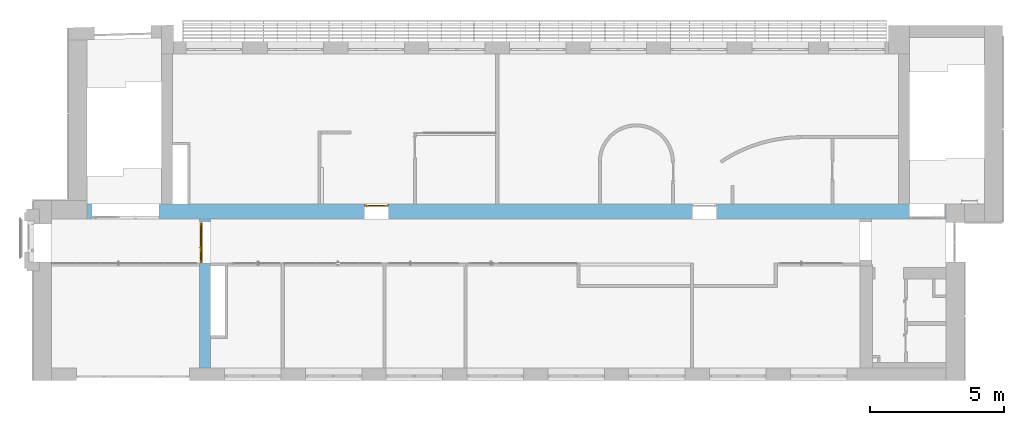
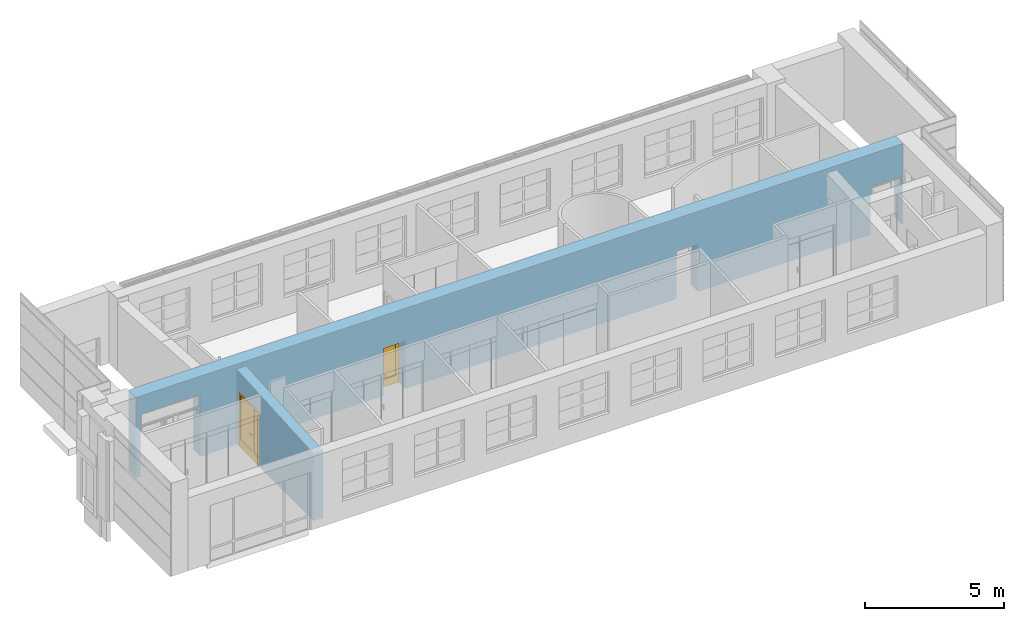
# One storey, part 42 of 46: 2 doors, 8 openings, plus 2 elements that do not belong to this part.
"""IFC2X3 building model written with IfcOpenShell, lengths in millimetres."""

from ifc_helpers import new_model, entity, si_unit, converted_unit, derived_unit, direction, frame, frame_2d, origin, place, context, subcontext, project, spatial, rectangle, extrude, clip, halfspace, faceted_brep, source, transform, mapped, material, material_list, layer, layer_set, layer_usage, type_object, type_shapes, element, fill, save


model = new_model("IFC2X3")

# Units and contexts
model_context = context("Model", 3, precision=0.01, world=origin(), true_north=direction((6.12303176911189e-17, 1.0)))
body_context = subcontext(model_context, "Body", "Model", "MODEL_VIEW")
ifc_project = project(units=[si_unit("LENGTHUNIT", "METRE", prefix="MILLI"), si_unit("AREAUNIT", "SQUARE_METRE"), si_unit("VOLUMEUNIT", "CUBIC_METRE"), converted_unit("PLANEANGLEUNIT", "DEGREE", entity("IfcRatioMeasure", 0.0174532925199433), si_unit("PLANEANGLEUNIT", "RADIAN"), dimensions=[0, 0, 0, 0, 0, 0, 0]), si_unit("MASSUNIT", "GRAM", prefix="KILO"), derived_unit("MASSDENSITYUNIT", [(si_unit("MASSUNIT", "GRAM", prefix="KILO"), 1), (si_unit("LENGTHUNIT", "METRE"), -3)]), si_unit("TIMEUNIT", "SECOND"), si_unit("FREQUENCYUNIT", "HERTZ"), si_unit("THERMODYNAMICTEMPERATUREUNIT", "DEGREE_CELSIUS"), derived_unit("THERMALTRANSMITTANCEUNIT", [(si_unit("MASSUNIT", "GRAM", prefix="KILO"), 1), (si_unit("THERMODYNAMICTEMPERATUREUNIT", "KELVIN"), -1), (si_unit("TIMEUNIT", "SECOND"), -3)]), derived_unit("VOLUMETRICFLOWRATEUNIT", [(si_unit("LENGTHUNIT", "METRE"), 3), (si_unit("TIMEUNIT", "SECOND"), -1)]), si_unit("ELECTRICCURRENTUNIT", "AMPERE"), si_unit("ELECTRICVOLTAGEUNIT", "VOLT"), si_unit("POWERUNIT", "WATT"), si_unit("FORCEUNIT", "NEWTON", prefix="KILO"), si_unit("ILLUMINANCEUNIT", "LUX"), si_unit("LUMINOUSFLUXUNIT", "LUMEN"), si_unit("LUMINOUSINTENSITYUNIT", "CANDELA"), derived_unit("USERDEFINED", [(si_unit("MASSUNIT", "GRAM", prefix="KILO"), -1), (si_unit("LENGTHUNIT", "METRE"), -2), (si_unit("TIMEUNIT", "SECOND"), 3), (si_unit("LUMINOUSFLUXUNIT", "LUMEN"), 1)]), derived_unit("LINEARVELOCITYUNIT", [(si_unit("LENGTHUNIT", "METRE"), 1), (si_unit("TIMEUNIT", "SECOND"), -1)]), si_unit("PRESSUREUNIT", "PASCAL"), derived_unit("USERDEFINED", [(si_unit("LENGTHUNIT", "METRE"), -2), (si_unit("MASSUNIT", "GRAM", prefix="KILO"), 1), (si_unit("TIMEUNIT", "SECOND"), -2)])], contexts=[model_context])

# Site, building, storey
site_placement = place(None, frame((-151.875543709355, 2715.0, 0.0)))
site = spatial("IfcSite", under=ifc_project, at=site_placement, Name="Surface", CompositionType="ELEMENT")
building_placement = place(site_placement, origin())
building = spatial("IfcBuilding", under=site, at=building_placement, CompositionType="ELEMENT")
storey_placement = place(building_placement, frame((0.0, 0.0, 10060.0)))
storey = spatial("IfcBuildingStorey", under=building, at=storey_placement, Name="4 korrus", CompositionType="ELEMENT", Elevation=10060.0000000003)

# Wall, openings, door
ifc_material_1 = material(Name="__Hall krohv")
ifc_layer_1 = layer(ifc_material_1, 10.0)
ifc_material_2 = material(Name="Tellis")
ifc_layer_2 = layer(ifc_material_2, 380.0)
ifc_layer_3 = layer(ifc_material_1, 10.0)
ifc_layer_set_1 = layer_set([ifc_layer_1, ifc_layer_2, ifc_layer_3], Name="Basic Wall:SS-01_ol.olev tellissein400")
ifc_layer_usage_1 = layer_usage(ifc_layer_set_1, "AXIS2", "NEGATIVE", 200.0)
wall_type_1 = type_object("IfcWallType", Name="Basic Wall:SS-01_ol.olev tellissein400", PredefinedType="STANDARD", material=ifc_layer_set_1)
wall_1_placement = place(storey_placement, frame((6162.49352943, 459.904632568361, 0.0), z_axis=(0.0, 0.0, 1.0), x_axis=(0.0, 1.0, 0.0)))
wall_1 = element("IfcWallStandardCase", 1, at=wall_1_placement, inside=storey, type_object=wall_type_1, material=ifc_layer_usage_1, Name="SEIN - 001", ObjectType="Basic Wall:SS-01_ol.olev tellissein400", context=body_context, shape_type="Clipping", body=[
    clip(extrude(rectangle(XDim=5550.09536743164, YDim=400.0, at=frame_2d((2775.04768371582, 0.0), x_axis=(-1.0, 0.0))), origin(), (0.0, 0.0, 1.0), 3326.72700668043), halfspace(frame((0.0, -200.0, 2971.26018189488), z_axis=(-0.0639160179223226, 0.0, 0.997955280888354), x_axis=(0.0, 1.0, 0.0)), False)),
])
opening_1_placement = place(wall_1_placement, origin())
element("IfcOpeningElement", 2, at=opening_1_placement, cuts=wall_1, Name="SEIN - 001", ObjectType="Opening", context=body_context, shape_type="SweptSolid", body=[
    extrude(rectangle(XDim=2425.99386215, YDim=1510.16235352, at=frame_2d((-1.02318153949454e-12, 0.0), x_axis=(1.0, 0.0))), frame((4671.45356888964, -200.0, 1212.99693108), z_axis=(0.0, 1.0, 0.0), x_axis=(0.0, 0.0, -1.0)), (0.0, 0.0, 1.0), 800.0),
])
opening_2_placement = place(wall_1_placement, frame((3916.37239212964, -200.0, -0.00203353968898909)))
opening_2 = element("IfcOpeningElement", 3, at=opening_2_placement, cuts=wall_1, Name="Kahepoolsed:SU-23:1", ObjectType="Opening", context=body_context, shape_type="SweptSolid", body=[
    extrude(rectangle(XDim=2419.99999999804, YDim=1500.0, at=frame_2d((1209.99999999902, 750.0), x_axis=(1.0, 0.0))), frame((0.0, 0.0, 0.0), z_axis=(0.0, 1.0, 0.0), x_axis=(0.0, 0.0, 1.0)), (0.0, 0.0, 1.0), 400.0),
])
ifc_material_3 = material(Name="_Alumiiniumprofiil - must")
ifc_material_4 = material(Name="__Uks_hele tamm")
ifc_material_5 = material(Name="EP Tavallinen lasi")
ifc_material_list_1 = material_list([ifc_material_3, ifc_material_4, ifc_material_5])
ifc_material_list_2 = material_list([ifc_material_3, ifc_material_4, ifc_material_5])
door_style_1 = type_object("IfcDoorStyle", Name="SU-23", ConstructionType="NOTDEFINED", OperationType="FOLDING_TO_RIGHT", ParameterTakesPrecedence=False, Sizeable=False, material=ifc_material_list_2)
shared_shape_1 = source(origin(), body_context, "Body", "Brep", [
    faceted_brep([(520.260051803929, 290.0, 1100.0), (520.260051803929, 328.0, 1100.0), (495.260051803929, 328.0, 1100.0), (495.260051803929, 285.0, 1100.0), (615.260051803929, 285.0, 1100.0), (615.260051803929, 290.0, 1100.0), (520.260051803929, 290.0, 1075.0), (615.260051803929, 290.0, 1075.0), (615.260051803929, 285.0, 1075.0), (495.260051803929, 285.0, 1075.0), (495.260051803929, 328.0, 1075.0), (520.260051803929, 328.0, 1075.0)], [[[0, 1, 2, 3, 4, 5]], [[6, 7, 8, 9, 10, 11]], [[1, 0, 6, 11]], [[2, 1, 11, 10]], [[3, 2, 10, 9]], [[4, 3, 9, 8]], [[5, 4, 8, 7]], [[0, 5, 7, 6]]]),
    faceted_brep([(532.760051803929, 328.0, 1125.0), (532.760051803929, 330.0, 1125.0), (482.760051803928, 330.0, 1125.0), (482.760051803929, 328.0, 1125.0), (532.760051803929, 328.0, 1005.0), (482.760051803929, 328.0, 1005.0), (482.760051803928, 330.0, 1005.0), (532.760051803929, 330.0, 1005.0)], [[[0, 1, 2, 3]], [[4, 5, 6, 7]], [[1, 0, 4, 7]], [[2, 1, 7, 6]], [[3, 2, 6, 5]], [[0, 3, 5, 4]]]),
    faceted_brep([(520.26005180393, 420.0, 1100.0), (615.26005180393, 420.0, 1100.0), (615.26005180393, 425.0, 1100.0), (495.26005180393, 425.0, 1100.0), (495.26005180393, 382.0, 1100.0), (520.26005180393, 382.0, 1100.0), (520.26005180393, 420.0, 1075.0), (520.26005180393, 382.0, 1075.0), (495.26005180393, 382.0, 1075.0), (495.26005180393, 425.0, 1075.0), (615.26005180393, 425.0, 1075.0), (615.26005180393, 420.0, 1075.0)], [[[0, 1, 2, 3, 4, 5]], [[6, 7, 8, 9, 10, 11]], [[5, 7, 6, 0]], [[4, 8, 7, 5]], [[3, 9, 8, 4]], [[2, 10, 9, 3]], [[1, 11, 10, 2]], [[0, 6, 11, 1]]]),
    faceted_brep([(532.76005180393, 382.0, 1125.0), (482.76005180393, 382.0, 1125.0), (482.76005180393, 380.0, 1125.0), (532.76005180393, 380.0, 1125.0), (532.76005180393, 382.0, 1005.0), (532.76005180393, 380.0, 1005.0), (482.76005180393, 380.0, 1005.0), (482.76005180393, 382.0, 1005.0)], [[[0, 1, 2, 3]], [[4, 5, 6, 7]], [[3, 5, 4, 0]], [[2, 6, 5, 3]], [[1, 7, 6, 2]], [[0, 4, 7, 1]]]),
    faceted_brep([(-27.2399481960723, 290.0, 30.0), (-27.2399481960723, 330.0, 30.0), (-27.2399481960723, 330.0, 20.0), (-27.2399481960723, 330.0, 0.0), (-27.2399481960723, 290.0, 0.0), (1392.76005180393, 290.0, 30.0), (1392.76005180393, 290.0, 0.0), (1392.76005180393, 330.0, 0.0), (1392.76005180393, 330.0, 20.0), (1392.76005180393, 330.0, 30.0), (-42.2399481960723, 330.0, 0.0), (-42.2399481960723, 380.0, 0.0), (1407.76005180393, 380.0, 0.0), (1407.76005180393, 330.0, 0.0), (-42.2399481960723, 380.0, 20.0), (-42.2399481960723, 330.0, 20.0), (1407.76005180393, 380.0, 20.0), (1407.76005180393, 330.0, 20.0)], [[[0, 1, 2, 3, 4]], [[5, 6, 7, 8, 9]], [[4, 6, 5, 0]], [[3, 10, 11, 12, 13, 7, 6, 4]], [[9, 8, 2, 1]], [[0, 5, 9, 1]], [[14, 11, 10, 15]], [[16, 17, 13, 12]], [[15, 2, 8, 17, 16, 14]], [[10, 3, 2, 15]], [[14, 16, 12, 11]], [[17, 8, 7, 13]]]),
    faceted_brep([(-67.2399481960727, 290.0, 0.0), (-67.239948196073, 380.0, 0.0), (-42.239948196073, 380.0, 0.0), (-42.2399481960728, 330.0, 0.0), (-27.2399481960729, 330.0, 0.0), (-27.2399481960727, 290.0, 0.0), (-27.2399481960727, 290.0, 2380.0), (1392.76005180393, 290.0, 2380.0), (1392.76005180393, 290.0, 0.0), (1432.76005180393, 290.0, 0.0), (1432.76005180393, 290.0, 2420.0), (-67.2399481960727, 290.0, 2420.0), (-27.2399481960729, 330.0, 2380.0), (-42.239948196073, 330.0, 2395.0), (1407.76005180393, 330.0, 2395.0), (1407.76005180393, 330.0, 0.0), (1392.76005180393, 330.0, 0.0), (1392.76005180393, 330.0, 2380.0), (-42.2399481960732, 380.0, 2395.0), (-67.2399481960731, 380.0, 2420.0), (1432.76005180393, 380.0, 2420.0), (1432.76005180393, 380.0, 0.0), (1407.76005180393, 380.0, 0.0), (1407.76005180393, 380.0, 2395.0)], [[[0, 1, 2, 3, 4, 5]], [[5, 6, 7, 8, 9, 10, 11, 0]], [[4, 12, 6, 5]], [[3, 13, 14, 15, 16, 17, 12, 4]], [[2, 18, 13, 3]], [[1, 19, 20, 21, 22, 23, 18, 2]], [[0, 11, 19, 1]], [[9, 21, 20, 10]], [[8, 16, 15, 22, 21, 9]], [[7, 17, 16, 8]], [[14, 23, 22, 15]], [[6, 12, 17, 7]], [[13, 18, 23, 14]], [[10, 20, 19, 11]]]),
    faceted_brep([(1307.76005180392, 345.0, 350.0), (1307.76005180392, 345.0, 2320.0), (532.760051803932, 345.0, 2320.0), (532.760051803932, 345.0, 350.0), (1307.76005180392, 365.0, 350.0), (532.760051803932, 365.0, 350.0), (532.760051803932, 365.0, 2320.0), (1307.76005180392, 365.0, 2320.0)], [[[0, 1, 2, 3]], [[4, 5, 6, 7]], [[3, 5, 4, 0]], [[2, 6, 5, 3]], [[1, 7, 6, 2]], [[0, 4, 7, 1]]]),
    faceted_brep([(332.760051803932, 345.0, 350.0), (332.760051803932, 345.0, 2320.0), (32.7600518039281, 345.0, 2320.0), (32.7600518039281, 345.0, 350.0), (332.760051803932, 365.0, 350.0), (32.7600518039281, 365.0, 350.0), (32.7600518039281, 365.0, 2320.0), (332.760051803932, 365.0, 2320.0)], [[[0, 1, 2, 3]], [[4, 5, 6, 7]], [[3, 5, 4, 0]], [[2, 6, 5, 3]], [[1, 7, 6, 2]], [[0, 4, 7, 1]]]),
    faceted_brep([(432.760051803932, 330.0, 2395.0), (432.760051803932, 330.0, 20.0), (1407.76005180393, 330.0, 20.0), (1407.76005180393, 330.0, 2395.0), (1307.76005180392, 330.0, 350.0), (532.760051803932, 330.0, 350.0), (532.760051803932, 330.0, 2320.0), (1307.76005180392, 330.0, 2320.0), (432.760051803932, 380.0, 2395.0), (1407.76005180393, 380.0, 2395.0), (1407.76005180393, 380.0, 20.0), (432.760051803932, 380.0, 20.0), (1307.76005180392, 380.0, 2320.0), (532.760051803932, 380.0, 2320.0), (532.760051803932, 380.0, 350.0), (1307.76005180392, 380.0, 350.0)], [[[0, 1, 2, 3], [4, 5, 6, 7]], [[8, 9, 10, 11], [12, 13, 14, 15]], [[3, 9, 8, 0]], [[2, 10, 9, 3]], [[1, 11, 10, 2]], [[0, 8, 11, 1]], [[12, 15, 4, 7]], [[15, 14, 5, 4]], [[14, 13, 6, 5]], [[7, 6, 13, 12]]]),
    faceted_brep([(432.760051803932, 330.0, 2395.0), (-42.2399481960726, 330.0, 2395.0), (-42.2399481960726, 330.0, 20.0), (432.760051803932, 330.0, 20.0), (332.760051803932, 330.0, 350.0), (32.7600518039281, 330.0, 350.0), (32.7600518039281, 330.0, 2320.0), (332.760051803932, 330.0, 2320.0), (432.760051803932, 380.0, 2395.0), (432.760051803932, 380.0, 20.0), (-42.2399481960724, 380.0, 20.0), (-42.2399481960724, 380.0, 2395.0), (332.760051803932, 380.0, 2320.0), (32.7600518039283, 380.0, 2320.0), (32.7600518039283, 380.0, 350.0), (332.760051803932, 380.0, 350.0)], [[[0, 1, 2, 3], [4, 5, 6, 7]], [[8, 9, 10, 11], [12, 13, 14, 15]], [[3, 9, 8, 0]], [[2, 10, 9, 3]], [[1, 11, 10, 2]], [[0, 8, 11, 1]], [[12, 15, 4, 7]], [[15, 14, 5, 4]], [[14, 13, 6, 5]], [[7, 6, 13, 12]]]),
])
type_shapes(door_style_1, [shared_shape_1])
door_1_placement = place(opening_2_placement, frame((67.2399481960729, 0.0, 0.0)))
door_1 = element("IfcDoor", 4, at=door_1_placement, inside=storey, type_object=door_style_1, material=ifc_material_list_1, Name="Kahepoolsed:SU-23", ObjectType="SU-23", OverallHeight=2419.99999999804, OverallWidth=1500.0, context=body_context, shape_type="MappedRepresentation", body=[
    mapped(shared_shape_1, transform((0.0, 0.0, 0.0), scale=1.0)),
])
fill(opening_2, door_1)

ifc_material_6 = material(Name="__Kips GN13_tava")
ifc_layer_4 = layer(ifc_material_6, 20.0)
ifc_material_7 = material(Name="Masonry - Brick")
ifc_layer_5 = layer(ifc_material_7, 510.0)
ifc_layer_6 = layer(ifc_material_6, 20.0)
ifc_layer_set_2 = layer_set([ifc_layer_4, ifc_layer_5, ifc_layer_6], Name="Basic Wall:SS-1")
ifc_layer_usage_2 = layer_usage(ifc_layer_set_2, "AXIS2", "POSITIVE", -275.0)
wall_type_2 = type_object("IfcWallType", Name="Basic Wall:SS-1", PredefinedType="STANDARD", material=ifc_layer_set_2)
wall_2_placement = place(storey_placement, frame((1770.0, 6285.0, 0.0)))
wall_2 = element("IfcWallStandardCase", 5, at=wall_2_placement, inside=storey, type_object=wall_type_2, material=ifc_layer_usage_2, Name="SEIN - 002", ObjectType="Basic Wall:SS-1", context=body_context, shape_type="SweptSolid", body=[
    extrude(rectangle(XDim=31971.6162682, YDim=550.000000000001, at=frame_2d((15985.8081341, 0.0), x_axis=(-1.0, 0.0))), origin(), (0.0, 0.0, 1.0), 3540.0),
])
opening_3_placement = place(wall_2_placement, frame((23427.3743763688, 275.0, 0.0)))
element("IfcOpeningElement", 6, at=opening_3_placement, cuts=wall_2, Name="Ühepoolsed:SU-02.:1", ObjectType="Opening", context=body_context, shape_type="SweptSolid", body=[
    extrude(rectangle(XDim=2099.99999999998, YDim=900.0, at=frame_2d((1049.99999999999, 450.0), x_axis=(1.0, 0.0))), frame((0.0, 0.0, 0.0), z_axis=(0.0, -1.0, 0.0), x_axis=(0.0, 0.0, 1.0)), (0.0, 0.0, 1.0), 550.0),
])
opening_4_placement = place(wall_2_placement, frame((30602.6162682, -275.0, 0.0)))
element("IfcOpeningElement", 7, at=opening_4_placement, cuts=wall_2, Name="Kahepoolsed:SU-11:1", ObjectType="Opening", context=body_context, shape_type="SweptSolid", body=[
    extrude(rectangle(XDim=2099.99999999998, YDim=1300.0, at=frame_2d((1049.99999999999, 650.0), x_axis=(1.0, 0.0))), frame((0.0, 0.0, 0.0), z_axis=(0.0, 1.0, 0.0), x_axis=(0.0, 0.0, 1.0)), (0.0, 0.0, 1.0), 550.0),
])
opening_5_placement = place(wall_2_placement, frame((11222.6489830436, 275.0, 0.0)))
opening_5 = element("IfcOpeningElement", 8, at=opening_5_placement, cuts=wall_2, Name="Ühepoolsed:SU-02:1", ObjectType="Opening", context=body_context, shape_type="SweptSolid", body=[
    extrude(rectangle(XDim=2099.99999999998, YDim=900.0, at=frame_2d((1049.99999999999, 449.999999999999), x_axis=(1.0, 0.0))), frame((0.0, 0.0, 0.0), z_axis=(0.0, -1.0, 0.0), x_axis=(0.0, 0.0, 1.0)), (0.0, 0.0, 1.0), 550.0),
])
opening_6_placement = place(wall_2_placement, frame((188.767567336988, -275.0, 2200.0)))
element("IfcOpeningElement", 9, at=opening_6_placement, cuts=wall_2, Name="Ühepoolsed:SU17_ülemine:1", ObjectType="Opening", context=body_context, shape_type="SweptSolid", body=[
    extrude(rectangle(XDim=539.999999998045, YDim=2500.0, at=frame_2d((269.999999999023, 1250.0), x_axis=(1.0, 0.0))), frame((0.0, 0.0, 0.0), z_axis=(0.0, 1.0, 0.0), x_axis=(0.0, 0.0, 1.0)), (0.0, 0.0, 1.0), 550.0),
])
opening_7_placement = place(wall_2_placement, frame((1188.76756733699, -275.0, 0.0)))
element("IfcOpeningElement", 10, at=opening_7_placement, cuts=wall_2, Name="Kahepoolsed:SU-17:1", ObjectType="Opening", context=body_context, shape_type="SweptSolid", body=[
    extrude(rectangle(XDim=2199.99999999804, YDim=1500.0, at=frame_2d((1099.99999999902, 750.0), x_axis=(1.0, 0.0))), frame((0.0, 0.0, 0.0), z_axis=(0.0, 1.0, 0.0), x_axis=(0.0, 0.0, 1.0)), (0.0, 0.0, 1.0), 550.0),
])
opening_8_placement = place(wall_2_placement, frame((188.767567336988, -275.0, 0.0)))
element("IfcOpeningElement", 11, at=opening_8_placement, cuts=wall_2, Name="Aken ukse kohal:SU-1500_aken:1", ObjectType="Opening", context=body_context, shape_type="SweptSolid", body=[
    extrude(rectangle(XDim=2199.99999999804, YDim=1000.0, at=frame_2d((1099.99999999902, 500.0), x_axis=(1.0, 0.0))), frame((0.0, 0.0, 0.0), z_axis=(0.0, 1.0, 0.0), x_axis=(0.0, 0.0, 1.0)), (0.0, 0.0, 1.0), 550.0),
])
ifc_material_8 = material(Name="Glass")
ifc_material_list_3 = material_list([ifc_material_3, ifc_material_4, ifc_material_8])
ifc_material_list_4 = material_list([ifc_material_3, ifc_material_4, ifc_material_8])
door_style_2 = type_object("IfcDoorStyle", Name="SU-02", ConstructionType="NOTDEFINED", OperationType="FOLDING_TO_LEFT", ParameterTakesPrecedence=False, Sizeable=False, material=ifc_material_list_4)
shared_shape_2 = source(origin(), body_context, "Body", "Brep", [
    faceted_brep([(800.0, 0.0, 1112.5), (705.0, 0.0, 1112.5), (705.0, -5.0, 1112.5), (825.0, -5.0, 1112.5), (825.0, 38.0, 1112.5), (800.0, 38.0, 1112.5), (800.0, 0.0, 1087.5), (800.0, 38.0, 1087.5), (825.0, 38.0, 1087.5), (825.0, -5.0, 1087.5), (705.0, -5.0, 1087.5), (705.0, 0.0, 1087.5)], [[[0, 1, 2, 3, 4, 5]], [[6, 7, 8, 9, 10, 11]], [[5, 7, 6, 0]], [[4, 8, 7, 5]], [[3, 9, 8, 4]], [[2, 10, 9, 3]], [[1, 11, 10, 2]], [[0, 6, 11, 1]]]),
    faceted_brep([(787.500000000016, 38.0, 1137.5), (837.500000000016, 38.0, 1137.5), (837.500000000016, 40.0, 1137.5), (787.500000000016, 40.0, 1137.5), (787.500000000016, 38.0, 1017.5), (787.500000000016, 40.0, 1017.5), (837.500000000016, 40.0, 1017.5), (837.500000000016, 38.0, 1017.5)], [[[0, 1, 2, 3]], [[4, 5, 6, 7]], [[3, 5, 4, 0]], [[2, 6, 5, 3]], [[1, 7, 6, 2]], [[0, 4, 7, 1]]]),
    faceted_brep([(800.0, 130.0, 1112.5), (800.0, 92.0, 1112.5), (825.0, 92.0, 1112.5), (825.0, 135.0, 1112.5), (705.0, 135.0, 1112.5), (705.0, 130.0, 1112.5), (800.0, 130.0, 1087.5), (705.0, 130.0, 1087.5), (705.0, 135.0, 1087.5), (825.0, 135.0, 1087.5), (825.0, 92.0, 1087.5), (800.0, 92.0, 1087.5)], [[[0, 1, 2, 3, 4, 5]], [[6, 7, 8, 9, 10, 11]], [[1, 0, 6, 11]], [[2, 1, 11, 10]], [[3, 2, 10, 9]], [[4, 3, 9, 8]], [[5, 4, 8, 7]], [[0, 5, 7, 6]]]),
    faceted_brep([(787.500000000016, 92.0, 1137.5), (787.500000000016, 90.0, 1137.5), (837.500000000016, 90.0, 1137.5), (837.500000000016, 92.0, 1137.5), (787.500000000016, 92.0, 1017.5), (837.500000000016, 92.0, 1017.5), (837.500000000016, 90.0, 1017.5), (787.500000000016, 90.0, 1017.5)], [[[0, 1, 2, 3]], [[4, 5, 6, 7]], [[1, 0, 4, 7]], [[2, 1, 7, 6]], [[3, 2, 6, 5]], [[0, 3, 5, 4]]]),
    faceted_brep([(0.0, 0.0, 0.0), (0.0, 90.0, 0.0), (25.0, 90.0, 0.0), (25.0, 40.0, 0.0), (40.0, 40.0, 0.0), (40.0, 0.0, 0.0), (40.0, 0.0, 2060.0), (860.0, 0.0, 2060.0), (860.0, 0.0, 0.0), (900.0, 0.0, 0.0), (900.0, 0.0, 2100.0), (0.0, 0.0, 2100.0), (40.0, 40.0, 2060.0), (25.0, 40.0, 2075.0), (875.0, 40.0, 2075.0), (875.0, 40.0, 0.0), (860.0, 40.0, 0.0), (860.0, 40.0, 2060.0), (25.0, 90.0, 2075.0), (0.0, 90.0, 2100.0), (900.0, 90.0, 2100.0), (900.0, 90.0, 0.0), (875.0, 90.0, 0.0), (875.0, 90.0, 2075.0)], [[[0, 1, 2, 3, 4, 5]], [[5, 6, 7, 8, 9, 10, 11, 0]], [[4, 12, 6, 5]], [[3, 13, 14, 15, 16, 17, 12, 4]], [[2, 18, 13, 3]], [[1, 19, 20, 21, 22, 23, 18, 2]], [[0, 11, 19, 1]], [[9, 21, 20, 10]], [[8, 16, 15, 22, 21, 9]], [[7, 17, 16, 8]], [[14, 23, 22, 15]], [[6, 12, 17, 7]], [[13, 18, 23, 14]], [[10, 20, 19, 11]]]),
    faceted_brep([(140.0, 55.0, 350.0), (760.0, 55.0, 350.0), (760.0, 55.0, 1960.0), (140.0, 55.0, 1960.0), (140.0, 75.0, 350.0), (140.0, 75.0, 1960.0), (760.0, 75.0, 1960.0), (760.0, 75.0, 350.0)], [[[0, 1, 2, 3]], [[4, 5, 6, 7]], [[3, 5, 4, 0]], [[2, 6, 5, 3]], [[1, 7, 6, 2]], [[0, 4, 7, 1]]]),
    faceted_brep([(25.0, 40.0, 20.0), (875.0, 40.0, 20.0), (875.0, 40.0, 2075.0), (25.0, 40.0, 2075.0), (760.0, 40.0, 350.0), (140.0, 40.0, 350.0), (140.0, 40.0, 1960.0), (760.0, 40.0, 1960.0), (25.0, 90.0, 20.0), (25.0, 90.0, 2075.0), (875.0, 90.0, 2075.0), (875.0, 90.0, 20.0), (760.0, 90.0, 1960.0), (140.0, 90.0, 1960.0), (140.0, 90.0, 350.0), (760.0, 90.0, 350.0)], [[[0, 1, 2, 3], [4, 5, 6, 7]], [[8, 9, 10, 11], [12, 13, 14, 15]], [[3, 9, 8, 0]], [[2, 10, 9, 3]], [[1, 11, 10, 2]], [[0, 8, 11, 1]], [[12, 15, 4, 7]], [[15, 14, 5, 4]], [[14, 13, 6, 5]], [[7, 6, 13, 12]]]),
])
type_shapes(door_style_2, [shared_shape_2])
door_2_placement = place(opening_5_placement, frame((0.0, 0.0, 0.0), z_axis=(0.0, 0.0, 1.0), x_axis=(-1.0, 0.0, 0.0)))
door_2 = element("IfcDoor", 12, at=door_2_placement, inside=storey, type_object=door_style_2, material=ifc_material_list_3, Name="Ühepoolsed:SU-02", ObjectType="SU-02", OverallHeight=2099.99999999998, OverallWidth=899.999999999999, context=body_context, shape_type="MappedRepresentation", body=[
    mapped(shared_shape_2, transform((0.0, 0.0, 0.0), scale=1.0)),
])
fill(opening_5, door_2)

save(model, "model.ifc")
